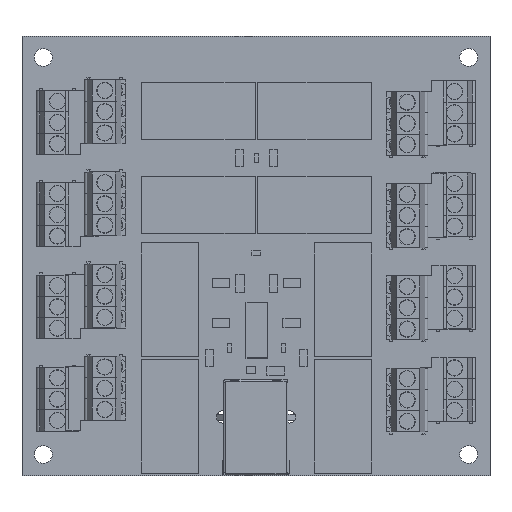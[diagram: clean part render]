
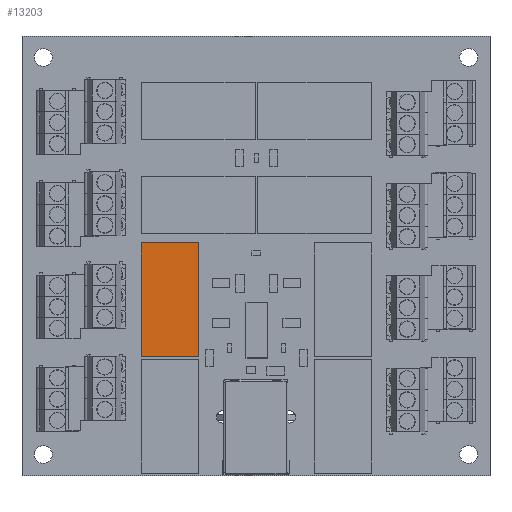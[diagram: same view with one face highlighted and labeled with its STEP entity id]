
A CAD part, top view. The second image highlights one B-rep face of the part: STEP entity #13203.
In plain terms, the highlighted planar face has unit normal (0, 0, 1).
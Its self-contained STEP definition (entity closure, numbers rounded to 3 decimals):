
#12889 = VERTEX_POINT('',#12890);
#12890 = CARTESIAN_POINT('',(-5.118,-10.2,9.2));
#12897 = PLANE('',#12898);
#12898 = AXIS2_PLACEMENT_3D('',#12899,#12900,#12901);
#12899 = CARTESIAN_POINT('',(-5.118,-10.2,0.));
#12900 = DIRECTION('',(-1.,0.,0.));
#12901 = DIRECTION('',(0.,1.,0.));
#12909 = PLANE('',#12910);
#12910 = AXIS2_PLACEMENT_3D('',#12911,#12912,#12913);
#12911 = CARTESIAN_POINT('',(5.118,-10.2,0.));
#12912 = DIRECTION('',(0.,-1.,0.));
#12913 = DIRECTION('',(-1.,0.,0.));
#12921 = EDGE_CURVE('',#12889,#12922,#12924,.T.);
#12922 = VERTEX_POINT('',#12923);
#12923 = CARTESIAN_POINT('',(-5.118,10.2,9.2));
#12924 = SURFACE_CURVE('',#12925,(#12929,#12936),.PCURVE_S1.);
#12925 = LINE('',#12926,#12927);
#12926 = CARTESIAN_POINT('',(-5.118,-10.2,9.2));
#12927 = VECTOR('',#12928,1.);
#12928 = DIRECTION('',(0.,1.,0.));
#12929 = PCURVE('',#12897,#12930);
#12930 = DEFINITIONAL_REPRESENTATION('',(#12931),#12935);
#12931 = LINE('',#12932,#12933);
#12932 = CARTESIAN_POINT('',(0.,-9.2));
#12933 = VECTOR('',#12934,1.);
#12934 = DIRECTION('',(1.,0.));
#12935 = ( GEOMETRIC_REPRESENTATION_CONTEXT(2) 
PARAMETRIC_REPRESENTATION_CONTEXT() REPRESENTATION_CONTEXT('2D SPACE',''
  ) );
#12936 = PCURVE('',#12937,#12942);
#12937 = PLANE('',#12938);
#12938 = AXIS2_PLACEMENT_3D('',#12939,#12940,#12941);
#12939 = CARTESIAN_POINT('',(-5.118,-10.2,9.2));
#12940 = DIRECTION('',(0.,0.,1.));
#12941 = DIRECTION('',(1.,0.,0.));
#12942 = DEFINITIONAL_REPRESENTATION('',(#12943),#12947);
#12943 = LINE('',#12944,#12945);
#12944 = CARTESIAN_POINT('',(0.,0.));
#12945 = VECTOR('',#12946,1.);
#12946 = DIRECTION('',(0.,1.));
#12947 = ( GEOMETRIC_REPRESENTATION_CONTEXT(2) 
PARAMETRIC_REPRESENTATION_CONTEXT() REPRESENTATION_CONTEXT('2D SPACE',''
  ) );
#12965 = PLANE('',#12966);
#12966 = AXIS2_PLACEMENT_3D('',#12967,#12968,#12969);
#12967 = CARTESIAN_POINT('',(-5.118,10.2,0.));
#12968 = DIRECTION('',(0.,1.,0.));
#12969 = DIRECTION('',(1.,0.,0.));
#13007 = EDGE_CURVE('',#12922,#13008,#13010,.T.);
#13008 = VERTEX_POINT('',#13009);
#13009 = CARTESIAN_POINT('',(5.118,10.2,9.2));
#13010 = SURFACE_CURVE('',#13011,(#13015,#13022),.PCURVE_S1.);
#13011 = LINE('',#13012,#13013);
#13012 = CARTESIAN_POINT('',(-5.118,10.2,9.2));
#13013 = VECTOR('',#13014,1.);
#13014 = DIRECTION('',(1.,0.,0.));
#13015 = PCURVE('',#12965,#13016);
#13016 = DEFINITIONAL_REPRESENTATION('',(#13017),#13021);
#13017 = LINE('',#13018,#13019);
#13018 = CARTESIAN_POINT('',(0.,-9.2));
#13019 = VECTOR('',#13020,1.);
#13020 = DIRECTION('',(1.,0.));
#13021 = ( GEOMETRIC_REPRESENTATION_CONTEXT(2) 
PARAMETRIC_REPRESENTATION_CONTEXT() REPRESENTATION_CONTEXT('2D SPACE',''
  ) );
#13022 = PCURVE('',#12937,#13023);
#13023 = DEFINITIONAL_REPRESENTATION('',(#13024),#13028);
#13024 = LINE('',#13025,#13026);
#13025 = CARTESIAN_POINT('',(0.,20.4));
#13026 = VECTOR('',#13027,1.);
#13027 = DIRECTION('',(1.,0.));
#13028 = ( GEOMETRIC_REPRESENTATION_CONTEXT(2) 
PARAMETRIC_REPRESENTATION_CONTEXT() REPRESENTATION_CONTEXT('2D SPACE',''
  ) );
#13046 = PLANE('',#13047);
#13047 = AXIS2_PLACEMENT_3D('',#13048,#13049,#13050);
#13048 = CARTESIAN_POINT('',(5.118,10.2,0.));
#13049 = DIRECTION('',(1.,0.,0.));
#13050 = DIRECTION('',(0.,-1.,0.));
#13083 = EDGE_CURVE('',#13008,#13084,#13086,.T.);
#13084 = VERTEX_POINT('',#13085);
#13085 = CARTESIAN_POINT('',(5.118,-10.2,9.2));
#13086 = SURFACE_CURVE('',#13087,(#13091,#13098),.PCURVE_S1.);
#13087 = LINE('',#13088,#13089);
#13088 = CARTESIAN_POINT('',(5.118,10.2,9.2));
#13089 = VECTOR('',#13090,1.);
#13090 = DIRECTION('',(0.,-1.,0.));
#13091 = PCURVE('',#13046,#13092);
#13092 = DEFINITIONAL_REPRESENTATION('',(#13093),#13097);
#13093 = LINE('',#13094,#13095);
#13094 = CARTESIAN_POINT('',(0.,-9.2));
#13095 = VECTOR('',#13096,1.);
#13096 = DIRECTION('',(1.,0.));
#13097 = ( GEOMETRIC_REPRESENTATION_CONTEXT(2) 
PARAMETRIC_REPRESENTATION_CONTEXT() REPRESENTATION_CONTEXT('2D SPACE',''
  ) );
#13098 = PCURVE('',#12937,#13099);
#13099 = DEFINITIONAL_REPRESENTATION('',(#13100),#13104);
#13100 = LINE('',#13101,#13102);
#13101 = CARTESIAN_POINT('',(10.236,20.4));
#13102 = VECTOR('',#13103,1.);
#13103 = DIRECTION('',(0.,-1.));
#13104 = ( GEOMETRIC_REPRESENTATION_CONTEXT(2) 
PARAMETRIC_REPRESENTATION_CONTEXT() REPRESENTATION_CONTEXT('2D SPACE',''
  ) );
#13154 = EDGE_CURVE('',#13084,#12889,#13155,.T.);
#13155 = SURFACE_CURVE('',#13156,(#13160,#13167),.PCURVE_S1.);
#13156 = LINE('',#13157,#13158);
#13157 = CARTESIAN_POINT('',(5.118,-10.2,9.2));
#13158 = VECTOR('',#13159,1.);
#13159 = DIRECTION('',(-1.,0.,0.));
#13160 = PCURVE('',#12909,#13161);
#13161 = DEFINITIONAL_REPRESENTATION('',(#13162),#13166);
#13162 = LINE('',#13163,#13164);
#13163 = CARTESIAN_POINT('',(0.,-9.2));
#13164 = VECTOR('',#13165,1.);
#13165 = DIRECTION('',(1.,0.));
#13166 = ( GEOMETRIC_REPRESENTATION_CONTEXT(2) 
PARAMETRIC_REPRESENTATION_CONTEXT() REPRESENTATION_CONTEXT('2D SPACE',''
  ) );
#13167 = PCURVE('',#12937,#13168);
#13168 = DEFINITIONAL_REPRESENTATION('',(#13169),#13173);
#13169 = LINE('',#13170,#13171);
#13170 = CARTESIAN_POINT('',(10.236,0.));
#13171 = VECTOR('',#13172,1.);
#13172 = DIRECTION('',(-1.,0.));
#13173 = ( GEOMETRIC_REPRESENTATION_CONTEXT(2) 
PARAMETRIC_REPRESENTATION_CONTEXT() REPRESENTATION_CONTEXT('2D SPACE',''
  ) );
#13203 = ADVANCED_FACE('',(#13204),#12937,.T.);
#13204 = FACE_BOUND('',#13205,.F.);
#13205 = EDGE_LOOP('',(#13206,#13207,#13208,#13209));
#13206 = ORIENTED_EDGE('',*,*,#12921,.T.);
#13207 = ORIENTED_EDGE('',*,*,#13007,.T.);
#13208 = ORIENTED_EDGE('',*,*,#13083,.T.);
#13209 = ORIENTED_EDGE('',*,*,#13154,.T.);
